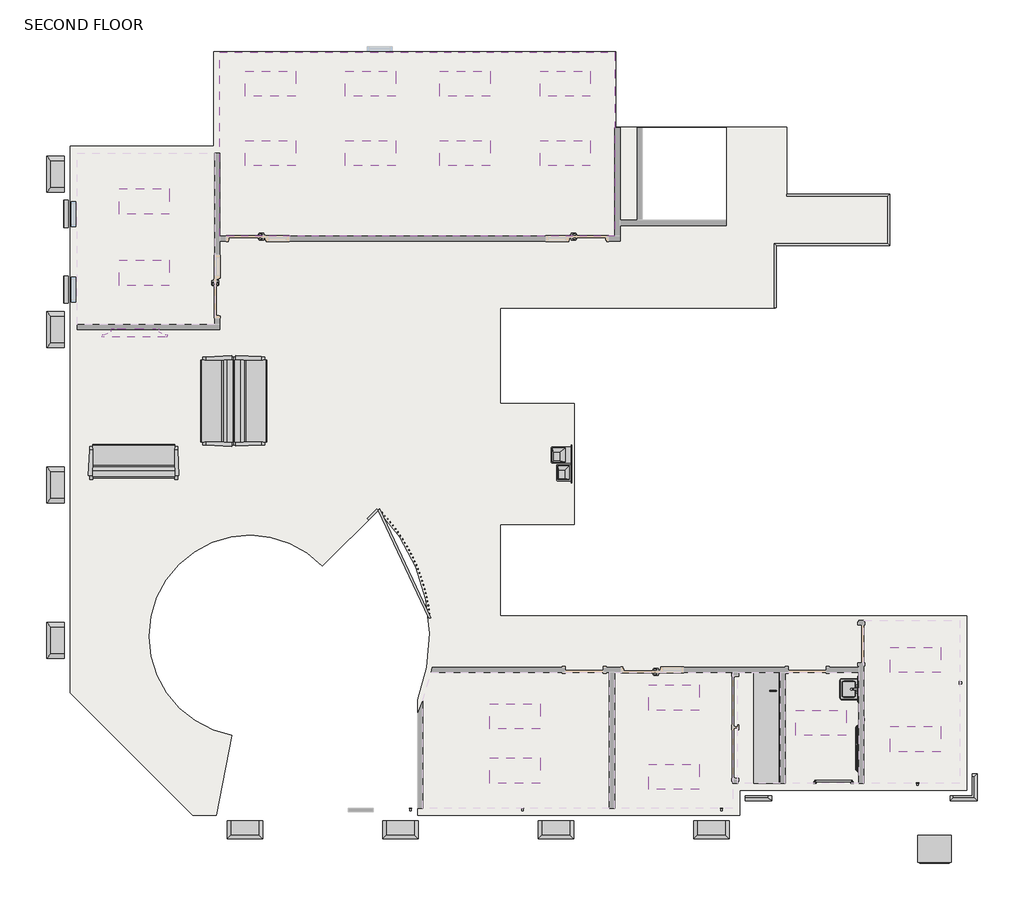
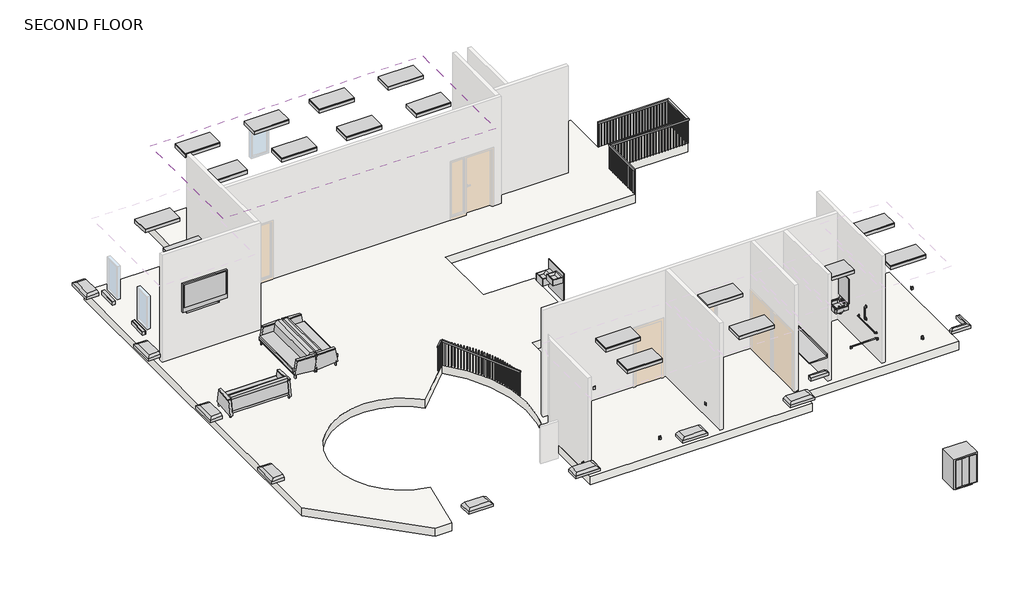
# One storey, part 2 of 2: 26 proxies, 17 light fixtures, 4 furniture elements, 3 flow terminals, 3 railings, 1 covering, 1 slab.
"""IFC4 building model written with IfcOpenShell, lengths in millimetres."""

from ifc_helpers import new_model, si_unit, point, frame, frame_2d, origin, place, context, project, spatial, polyline, circle_curve, trimmed, segment, composite_curve, outline, extrude, transform, mapped, element, save
from components import proxy_200_kva_0cb5b2e3, column_cap_corner_column_cap_corner_2673580a, column_cap_column_cap_363ad37e, duplex_receptacle_gfci_10251bba, grab_bar_ada_3_piece_grab_bar_ada_3_piece_66226777, precast_column_cap10_precast_column_cap_2545b0d7, precast_column_cap3_precast_column_cap_b02b9755, precast_column_cap4_precast_column_cap_0c692d38, proxy_52aa913c, tv_plasma_65_inch_5397_tv_plasma_42_inch_3d32dca7, flow_terminal_cf2a86d7, flow_terminal_50ef5554, flow_terminal_77e50434, furniture_2134_mm_67ee6dc0, furniture_60aab8a8, troffer_light_2x4_parabolic_2_x4_2_lamp_120v_ca384779, handrail_rectangular_2085f445, handrail_rectangular_c3d4dcf0, handrail_rectangular_678e5dc5

model = new_model("IFC4")

# Units and contexts
model_context = context("Model", 3, world=origin())
ifc_project = project(units=[si_unit("LENGTHUNIT", "METRE", prefix="MILLI")], contexts=[model_context])

# Site, building, storey
site = spatial("IfcSite", under=ifc_project)
building = spatial("IfcBuilding", under=site)
storey = spatial("IfcBuildingStorey", under=building, Name="SECOND FLOOR", Elevation=34594.8)

# Proxies
placement = place(None, origin())
proxy_200_kva_shape = proxy_200_kva_0cb5b2e3(model_context)
element("IfcBuildingElementProxy", 1, Name="Dry Type Transformer - 12000-208Y120 - NEMA Type 1 : 200 kVA", ObjectType="Dry Type Transformer - 12000-208Y120 - NEMA Type 1 : 200 kVA", at=placement, inside=storey, context=model_context, shape_type="MappedRepresentation", body=[
    mapped(proxy_200_kva_shape, transform((4206.764747, -6597.5239595, 30473.65), x_axis=(1.0, 0.0, 0.0), y_axis=(0.0, 1.0, 0.0), z_axis=(0.0, 0.0, 1.0))),
])
column_cap_corner_column_cap_corner_shape = column_cap_corner_column_cap_corner_2673580a(model_context)
element("IfcBuildingElementProxy", 2, Name="COLUMN CAP - CORNER : COLUMN CAP - CORNER", ObjectType="COLUMN CAP - CORNER : COLUMN CAP - CORNER", at=placement, inside=storey, context=model_context, shape_type="MappedRepresentation", body=[
    mapped(column_cap_corner_column_cap_corner_shape, transform((0.0, 0.0, 0.0), x_axis=(1.0, 0.0, 0.0), y_axis=(0.0, 1.0, 0.0), z_axis=(0.0, 0.0, 1.0))),
])
column_cap_column_cap_shape = column_cap_column_cap_363ad37e(model_context)
element("IfcBuildingElementProxy", 3, Name="COLUMN CAP : COLUMN CAP", ObjectType="COLUMN CAP : COLUMN CAP", at=placement, inside=storey, context=model_context, shape_type="MappedRepresentation", body=[
    mapped(column_cap_column_cap_shape, transform((0.0, 0.0, 0.0), x_axis=(1.0, 0.0, 0.0), y_axis=(0.0, 1.0, 0.0), z_axis=(0.0, 0.0, 1.0))),
])
duplex_receptacle_gfci_shape = duplex_receptacle_gfci_10251bba(model_context)
element("IfcBuildingElementProxy", 4, Name="Duplex Receptacle : GFCI", ObjectType="Duplex Receptacle : GFCI", at=placement, inside=storey, context=model_context, shape_type="MappedRepresentation", body=[
    mapped(duplex_receptacle_gfci_shape, transform((2095.389747, -2663.5972564, 35814.0), x_axis=(1.0, 0.0, 0.0), y_axis=(0.0, 0.0, 1.0), z_axis=(0.0, -1.0, 0.0))),
])
element("IfcBuildingElementProxy", 5, Name="Duplex Receptacle : Standard", ObjectType="Duplex Receptacle : Standard", at=placement, inside=storey, context=model_context, shape_type="MappedRepresentation", body=[
    mapped(duplex_receptacle_gfci_shape, transform((2501.789747, -3806.5972564, 35052.0), x_axis=(0.0, 1.0, 0.0), y_axis=(0.0, 0.0, 1.0), z_axis=(1.0, 0.0, 0.0))),
])
element("IfcBuildingElementProxy", 6, Name="Duplex Receptacle : Standard", ObjectType="Duplex Receptacle : Standard", at=placement, inside=storey, context=model_context, shape_type="MappedRepresentation", body=[
    mapped(duplex_receptacle_gfci_shape, transform((3800.364747, -5343.3989595, 35052.0), x_axis=(-1.0, 0.0, 0.0), y_axis=(0.0, 0.0, 1.0), z_axis=(0.0, 1.0, 0.0))),
])
element("IfcBuildingElementProxy", 7, Name="Duplex Receptacle : Standard", ObjectType="Duplex Receptacle : Standard", at=placement, inside=storey, context=model_context, shape_type="MappedRepresentation", body=[
    mapped(duplex_receptacle_gfci_shape, transform((4816.364747, -2917.5972564, 35052.0), x_axis=(0.0, -1.0, 0.0), y_axis=(0.0, 0.0, 1.0), z_axis=(-1.0, 0.0, 0.0))),
])
element("IfcBuildingElementProxy", 8, Name="Duplex Receptacle : Standard", ObjectType="Duplex Receptacle : Standard", at=placement, inside=storey, context=model_context, shape_type="MappedRepresentation", body=[
    mapped(duplex_receptacle_gfci_shape, transform((476.139747, -3228.8489595, 35052.0), x_axis=(0.0, -1.0, 0.0), y_axis=(0.0, 0.0, 1.0), z_axis=(-1.0, 0.0, 0.0))),
])
element("IfcBuildingElementProxy", 9, Name="Duplex Receptacle : Standard", ObjectType="Duplex Receptacle : Standard", at=placement, inside=storey, context=model_context, shape_type="MappedRepresentation", body=[
    mapped(duplex_receptacle_gfci_shape, transform((476.139747, -4505.1989595, 35052.0), x_axis=(0.0, -1.0, 0.0), y_axis=(0.0, 0.0, 1.0), z_axis=(-1.0, 0.0, 0.0))),
])
element("IfcBuildingElementProxy", 10, Name="Duplex Receptacle : Standard", ObjectType="Duplex Receptacle : Standard", at=placement, inside=storey, context=model_context, shape_type="MappedRepresentation", body=[
    mapped(duplex_receptacle_gfci_shape, transform((-3525.947753, -5495.7989595, 35052.0), x_axis=(0.0, 1.0, 0.0), y_axis=(0.0, 0.0, 1.0), z_axis=(1.0, 0.0, 0.0))),
])
element("IfcBuildingElementProxy", 11, Name="Duplex Receptacle : Standard", ObjectType="Duplex Receptacle : Standard", at=placement, inside=storey, context=model_context, shape_type="MappedRepresentation", body=[
    mapped(duplex_receptacle_gfci_shape, transform((-939.940733, -5952.9989595, 35052.0), x_axis=(-1.0, 0.0, 0.0), y_axis=(0.0, 0.0, 1.0), z_axis=(0.0, 1.0, 0.0))),
])
element("IfcBuildingElementProxy", 12, Name="Duplex Receptacle : Standard", ObjectType="Duplex Receptacle : Standard", at=placement, inside=storey, context=model_context, shape_type="MappedRepresentation", body=[
    mapped(duplex_receptacle_gfci_shape, transform((-8458.320413, -5952.9989595, 35052.0), x_axis=(-1.0, 0.0, 0.0), y_axis=(0.0, 0.0, 1.0), z_axis=(0.0, 1.0, 0.0))),
])
element("IfcBuildingElementProxy", 13, Name="Duplex Receptacle : Standard", ObjectType="Duplex Receptacle : Standard", at=placement, inside=storey, context=model_context, shape_type="MappedRepresentation", body=[
    mapped(duplex_receptacle_gfci_shape, transform((-5750.055573, -5952.9989595, 35052.0), x_axis=(-1.0, 0.0, 0.0), y_axis=(0.0, 0.0, 1.0), z_axis=(0.0, 1.0, 0.0))),
])
element("IfcBuildingElementProxy", 14, Name="Duplex Receptacle : Standard", ObjectType="Duplex Receptacle : Standard", at=placement, inside=storey, context=model_context, shape_type="MappedRepresentation", body=[
    mapped(duplex_receptacle_gfci_shape, transform((-3649.772753, -5090.5165506, 35052.0), x_axis=(0.0, -1.0, 0.0), y_axis=(0.0, 0.0, 1.0), z_axis=(-1.0, 0.0, 0.0))),
])
element("IfcBuildingElementProxy", 15, Name="Duplex Receptacle : Standard", ObjectType="Duplex Receptacle : Standard", at=placement, inside=storey, context=model_context, shape_type="MappedRepresentation", body=[
    mapped(duplex_receptacle_gfci_shape, transform((-6153.260253, -2663.5972564, 35052.0), x_axis=(1.0, 0.0, 0.0), y_axis=(0.0, 0.0, 1.0), z_axis=(0.0, -1.0, 0.0))),
])
grab_bar_ada_3_piece_grab_bar_ada_3_piece_shape = grab_bar_ada_3_piece_grab_bar_ada_3_piece_66226777(model_context)
element("IfcBuildingElementProxy", 16, Name="Grab Bar ADA - 3 Piece : Grab Bar ADA - 3 Piece", ObjectType="Grab Bar ADA - 3 Piece : Grab Bar ADA - 3 Piece", at=placement, inside=storey, context=model_context, shape_type="MappedRepresentation", body=[
    mapped(grab_bar_ada_3_piece_grab_bar_ada_3_piece_shape, transform((2377.964747, -5495.7989595, 34709.1), x_axis=(-1.0, 0.0, 0.0), y_axis=(0.0, -1.0, 0.0), z_axis=(0.0, 0.0, 1.0))),
])
precast_column_cap10_precast_column_cap_shape = precast_column_cap10_precast_column_cap_2545b0d7(model_context)
element("IfcBuildingElementProxy", 17, Name="Precast Column Cap10 : Precast Column Cap", ObjectType="Precast Column Cap10 : Precast Column Cap", at=placement, inside=storey, context=model_context, shape_type="MappedRepresentation", body=[
    mapped(precast_column_cap10_precast_column_cap_shape, transform((-10566.6362936, -3067.0443725, 0.0), x_axis=(0.0, -1.0, 0.0), y_axis=(1.0, 0.0, 0.0), z_axis=(0.0, 0.0, 1.0))),
])
element("IfcBuildingElementProxy", 18, Name="Precast Column Cap11 : Precast Column Cap", ObjectType="Precast Column Cap11 : Precast Column Cap", at=placement, inside=storey, context=model_context, shape_type="MappedRepresentation", body=[
    mapped(precast_column_cap10_precast_column_cap_shape, transform((-10566.6362936, 692.1454675, 0.0), x_axis=(0.0, -1.0, 0.0), y_axis=(1.0, 0.0, 0.0), z_axis=(0.0, 0.0, 1.0))),
])
element("IfcBuildingElementProxy", 19, Name="Precast Column Cap12 : Precast Column Cap", ObjectType="Precast Column Cap12 : Precast Column Cap", at=placement, inside=storey, context=model_context, shape_type="MappedRepresentation", body=[
    mapped(precast_column_cap10_precast_column_cap_shape, transform((-10566.6362936, 4451.3353075, 0.0), x_axis=(0.0, -1.0, 0.0), y_axis=(1.0, 0.0, 0.0), z_axis=(0.0, 0.0, 1.0))),
])
element("IfcBuildingElementProxy", 20, Name="Precast Column Cap2 : Precast Column Cap", ObjectType="Precast Column Cap2 : Precast Column Cap", at=placement, inside=storey, context=model_context, shape_type="MappedRepresentation", body=[
    mapped(precast_column_cap10_precast_column_cap_shape, transform((0.0, 0.0, 0.0), x_axis=(1.0, 0.0, 0.0), y_axis=(0.0, 1.0, 0.0), z_axis=(0.0, 0.0, 1.0))),
])
precast_column_cap3_precast_column_cap_shape = precast_column_cap3_precast_column_cap_b02b9755(model_context)
element("IfcBuildingElementProxy", 21, Name="Precast Column Cap3 : Precast Column Cap", ObjectType="Precast Column Cap3 : Precast Column Cap", at=placement, inside=storey, context=model_context, shape_type="MappedRepresentation", body=[
    mapped(precast_column_cap3_precast_column_cap_shape, transform((0.0, 0.0, 0.0), x_axis=(1.0, 0.0, 0.0), y_axis=(0.0, 1.0, 0.0), z_axis=(0.0, 0.0, 1.0))),
])
precast_column_cap4_precast_column_cap_shape = precast_column_cap4_precast_column_cap_0c692d38(model_context)
element("IfcBuildingElementProxy", 22, Name="Precast Column Cap4 : Precast Column Cap", ObjectType="Precast Column Cap4 : Precast Column Cap", at=placement, inside=storey, context=model_context, shape_type="MappedRepresentation", body=[
    mapped(precast_column_cap4_precast_column_cap_shape, transform((0.0, 0.0, 0.0), x_axis=(1.0, 0.0, 0.0), y_axis=(0.0, 1.0, 0.0), z_axis=(0.0, 0.0, 1.0))),
])
element("IfcBuildingElementProxy", 23, Name="Precast Column Cap9 : Precast Column Cap", ObjectType="Precast Column Cap9 : Precast Column Cap", at=placement, inside=storey, context=model_context, shape_type="MappedRepresentation", body=[
    mapped(precast_column_cap10_precast_column_cap_shape, transform((-10566.6362936, -6826.214034, 0.0), x_axis=(0.0, -1.0, 0.0), y_axis=(1.0, 0.0, 0.0), z_axis=(0.0, 0.0, 1.0))),
])
proxy_shape = proxy_52aa913c(model_context)
element("IfcBuildingElementProxy", 24, Name="Stone Sill : 2' x 8\" x 3 5/8\" Deep", ObjectType="Stone Sill : 2' x 8\" x 3 5/8\" Deep", at=placement, inside=storey, context=model_context, shape_type="MappedRepresentation", body=[
    mapped(proxy_shape, transform((-16673.80834, 5980.3756405, 33267.1320312), x_axis=(0.0, 1.0, 0.0), y_axis=(-1.0, 0.0, 0.0), z_axis=(0.0, 0.0, 1.0))),
])
element("IfcBuildingElementProxy", 25, Name="Stone Sill : 2' x 8\" x 3 5/8\" Deep", ObjectType="Stone Sill : 2' x 8\" x 3 5/8\" Deep", at=placement, inside=storey, context=model_context, shape_type="MappedRepresentation", body=[
    mapped(proxy_shape, transform((-16673.80834, 7809.1756405, 33267.1320313), x_axis=(0.0, 1.0, 0.0), y_axis=(-1.0, 0.0, 0.0), z_axis=(0.0, 0.0, 1.0))),
])
tv_plasma_65_inch_5397_tv_plasma_42_inch_shape = tv_plasma_65_inch_5397_tv_plasma_42_inch_3d32dca7(model_context)
element("IfcBuildingElementProxy", 26, Name="TV_PLASMA_65_INCH_5397 : TV Plasma 42 inch", ObjectType="TV_PLASMA_65_INCH_5397 : TV Plasma 42 inch", at=placement, inside=storey, context=model_context, shape_type="MappedRepresentation", body=[
    mapped(tv_plasma_65_inch_5397_tv_plasma_42_inch_shape, transform((-15119.460253, 5502.3807205, 35509.2), x_axis=(1.0, 0.0, 0.0), y_axis=(0.0, 1.0, 0.0), z_axis=(0.0, 0.0, 1.0))),
])

# Covering
element("IfcCovering", 27, ObjectType="2' x 2' ACT System", at=placement, inside=storey, context=model_context, shape_type="SweptSolid", body=[
    extrude(outline(polyline([(-13065.235253, 12335.0010405), (-8332.897753, 12335.0010405), (-3514.835253, 12335.0010405), (-3514.835253, 10658.6010405), (-3514.835253, 7886.8158805), (-13065.235253, 7886.8158805), (-13065.235253, 10049.0010405), (-13065.235253, 12335.0010405)]), holes=[polyline([(-11236.435253, 11877.8010405), (-12455.635253, 11877.8010405), (-12455.635253, 11268.2010405), (-11236.435253, 11268.2010405), (-11236.435253, 11877.8010405)]), polyline([(-11236.435253, 10201.4010405), (-12455.635253, 10201.4010405), (-12455.635253, 9591.8010405), (-11236.435253, 9591.8010405), (-11236.435253, 10201.4010405)]), polyline([(-4106.972753, 10201.4010405), (-5326.172753, 10201.4010405), (-5326.172753, 9591.8010405), (-4106.972753, 9591.8010405), (-4106.972753, 10201.4010405)]), polyline([(-4106.972753, 11877.8010405), (-5326.172753, 11877.8010405), (-5326.172753, 11268.2010405), (-4106.972753, 11268.2010405), (-4106.972753, 11877.8010405)]), polyline([(-6528.5348744, 11877.8010405), (-7747.7348744, 11877.8010405), (-7747.7348744, 11268.2010405), (-6528.5348744, 11268.2010405), (-6528.5348744, 11877.8010405)]), polyline([(-6528.5348744, 10201.4010405), (-7747.7348744, 10201.4010405), (-7747.7348744, 9591.8010405), (-6528.5348744, 9591.8010405), (-6528.5348744, 10201.4010405)]), polyline([(-8813.8668501, 10201.4010405), (-10033.0668501, 10201.4010405), (-10033.0668501, 9591.8010405), (-8813.8668501, 9591.8010405), (-8813.8668501, 10201.4010405)]), polyline([(-8813.8668501, 11877.8010405), (-10033.0668501, 11877.8010405), (-10033.0668501, 11268.2010405), (-8813.8668501, 11268.2010405), (-8813.8668501, 11877.8010405)])]), frame((0.0, 0.0, 37338.0), z_axis=(0.0, 0.0, 1.0), x_axis=(1.0, 0.0, 0.0)), (0.0, 0.0, 1.0), 57.15),
])

# Flow terminals
flow_terminal_shape = flow_terminal_cf2a86d7(model_context)
element("IfcFlowTerminal", 28, ObjectType="Drinking Fountain-Hi-Lo-3D : Drinking Fountain-Hi-Lo-3D", at=placement, inside=storey, context=model_context, shape_type="MappedRepresentation", body=[
    mapped(flow_terminal_shape, transform((-4502.260253, 2390.3195947, 34594.8), x_axis=(0.0, 1.0, 0.0), y_axis=(-1.0, 0.0, 0.0), z_axis=(0.0, 0.0, 1.0))),
])
flow_terminal_2_shape = flow_terminal_50ef5554(model_context)
element("IfcFlowTerminal", 29, ObjectType="Sink Kitchen-Single : 24\" x 21\"", at=placement, inside=storey, context=model_context, shape_type="MappedRepresentation", body=[
    mapped(flow_terminal_2_shape, transform((168.9638659, -3092.4080159, 34442.4), x_axis=(0.0, -1.0, 0.0), y_axis=(1.0, 0.0, 0.0), z_axis=(0.0, 0.0, 1.0))),
])
flow_terminal_3_shape = flow_terminal_77e50434(model_context)
element("IfcFlowTerminal", 30, ObjectType="sink_wall hung w_mirror_4835 : 20\" x 18\"", at=placement, inside=storey, context=model_context, shape_type="MappedRepresentation", body=[
    mapped(flow_terminal_3_shape, transform((2439.877247, -3363.5869526, 34594.8), x_axis=(0.0, 1.0, 0.0), y_axis=(-1.0, 0.0, 0.0), z_axis=(0.0, 0.0, 1.0))),
])

# Furniture
furniture_2134_mm_shape = furniture_2134_mm_67ee6dc0(model_context)
element("IfcFurniture", 31, ObjectType="M_Banquette (2) : 2134 mm", at=placement, inside=storey, context=model_context, shape_type="MappedRepresentation", body=[
    mapped(furniture_2134_mm_shape, transform((-12076.925417, 3623.5947905, 34594.8), x_axis=(0.0, 1.0, 0.0), y_axis=(-1.0, 0.0, 0.0), z_axis=(0.0, 0.0, 1.0))),
])
element("IfcFurniture", 32, ObjectType="M_Banquette (2) : 2134 mm", at=placement, inside=storey, context=model_context, shape_type="MappedRepresentation", body=[
    mapped(furniture_2134_mm_shape, transform((-14869.429003, 2706.1007166, 34594.8), x_axis=(-1.0, 0.0, 0.0), y_axis=(0.0, -1.0, 0.0), z_axis=(0.0, 0.0, 1.0))),
])
element("IfcFurniture", 33, ObjectType="M_Banquette (2) : 2134 mm", at=placement, inside=storey, context=model_context, shape_type="MappedRepresentation", body=[
    mapped(furniture_2134_mm_shape, transform((-13386.7950891, 4180.8072905, 34594.8), x_axis=(0.0, -1.0, 0.0), y_axis=(1.0, 0.0, 0.0), z_axis=(0.0, 0.0, 1.0))),
])
furniture_shape = furniture_60aab8a8(model_context)
element("IfcFurniture", 34, ObjectType="Counter Top : 24\" Depth", at=placement, inside=storey, context=model_context, shape_type="MappedRepresentation", body=[
    mapped(furniture_shape, transform((476.139747, -3864.0595515, 34594.8), x_axis=(0.0, -1.0, 0.0), y_axis=(1.0, 0.0, 0.0), z_axis=(0.0, 0.0, 1.0))),
])

# Light fixtures
troffer_light_2x4_parabolic_2_x4_2_lamp_120v_shape = troffer_light_2x4_parabolic_2_x4_2_lamp_120v_ca384779(model_context)
element("IfcLightFixture", 35, ObjectType="Troffer Light - 2x4 Parabolic : 2'x4'(2 Lamp) - 120V", at=placement, inside=storey, context=model_context, shape_type="MappedRepresentation", body=[
    mapped(troffer_light_2x4_parabolic_2_x4_2_lamp_120v_shape, transform((-14875.3317515, 8787.6669726, 34899.6), x_axis=(1.0, 0.0, 0.0), y_axis=(0.0, 1.0, 0.0), z_axis=(0.0, 0.0, 1.0))),
])
element("IfcLightFixture", 36, ObjectType="Troffer Light - 2x4 Parabolic : 2'x4'(2 Lamp) - 120V", at=placement, inside=storey, context=model_context, shape_type="MappedRepresentation", body=[
    mapped(troffer_light_2x4_parabolic_2_x4_2_lamp_120v_shape, transform((-14875.3317515, 7060.4568126, 34899.6), x_axis=(1.0, 0.0, 0.0), y_axis=(0.0, 1.0, 0.0), z_axis=(0.0, 0.0, 1.0))),
])
element("IfcLightFixture", 37, ObjectType="Troffer Light - 2x4 Parabolic : 2'x4'(2 Lamp) - 120V", at=placement, inside=storey, context=model_context, shape_type="MappedRepresentation", body=[
    mapped(troffer_light_2x4_parabolic_2_x4_2_lamp_120v_shape, transform((-11827.3317515, 11632.4669726, 34899.6), x_axis=(1.0, 0.0, 0.0), y_axis=(0.0, 1.0, 0.0), z_axis=(0.0, 0.0, 1.0))),
])
element("IfcLightFixture", 38, ObjectType="Troffer Light - 2x4 Parabolic : 2'x4'(2 Lamp) - 120V", at=placement, inside=storey, context=model_context, shape_type="MappedRepresentation", body=[
    mapped(troffer_light_2x4_parabolic_2_x4_2_lamp_120v_shape, transform((-11827.3317515, 9956.0669726, 34899.6), x_axis=(1.0, 0.0, 0.0), y_axis=(0.0, 1.0, 0.0), z_axis=(0.0, 0.0, 1.0))),
])
element("IfcLightFixture", 39, ObjectType="Troffer Light - 2x4 Parabolic : 2'x4'(2 Lamp) - 120V", at=placement, inside=storey, context=model_context, shape_type="MappedRepresentation", body=[
    mapped(troffer_light_2x4_parabolic_2_x4_2_lamp_120v_shape, transform((-4697.8692515, 9956.0669726, 34899.6), x_axis=(1.0, 0.0, 0.0), y_axis=(0.0, 1.0, 0.0), z_axis=(0.0, 0.0, 1.0))),
])
element("IfcLightFixture", 40, ObjectType="Troffer Light - 2x4 Parabolic : 2'x4'(2 Lamp) - 120V", at=placement, inside=storey, context=model_context, shape_type="MappedRepresentation", body=[
    mapped(troffer_light_2x4_parabolic_2_x4_2_lamp_120v_shape, transform((-4697.8692515, 11632.4669726, 34899.6), x_axis=(1.0, 0.0, 0.0), y_axis=(0.0, 1.0, 0.0), z_axis=(0.0, 0.0, 1.0))),
])
element("IfcLightFixture", 41, ObjectType="Troffer Light - 2x4 Parabolic : 2'x4'(2 Lamp) - 120V", at=placement, inside=storey, context=model_context, shape_type="MappedRepresentation", body=[
    mapped(troffer_light_2x4_parabolic_2_x4_2_lamp_120v_shape, transform((-7119.4313728, 11632.4669726, 34899.6), x_axis=(1.0, 0.0, 0.0), y_axis=(0.0, 1.0, 0.0), z_axis=(0.0, 0.0, 1.0))),
])
element("IfcLightFixture", 42, ObjectType="Troffer Light - 2x4 Parabolic : 2'x4'(2 Lamp) - 120V", at=placement, inside=storey, context=model_context, shape_type="MappedRepresentation", body=[
    mapped(troffer_light_2x4_parabolic_2_x4_2_lamp_120v_shape, transform((-7119.4313728, 9956.0669726, 34899.6), x_axis=(1.0, 0.0, 0.0), y_axis=(0.0, 1.0, 0.0), z_axis=(0.0, 0.0, 1.0))),
])
element("IfcLightFixture", 43, ObjectType="Troffer Light - 2x4 Parabolic : 2'x4'(2 Lamp) - 120V", at=placement, inside=storey, context=model_context, shape_type="MappedRepresentation", body=[
    mapped(troffer_light_2x4_parabolic_2_x4_2_lamp_120v_shape, transform((-9404.7633485, 9956.0669726, 34899.6), x_axis=(1.0, 0.0, 0.0), y_axis=(0.0, 1.0, 0.0), z_axis=(0.0, 0.0, 1.0))),
])
element("IfcLightFixture", 44, ObjectType="Troffer Light - 2x4 Parabolic : 2'x4'(2 Lamp) - 120V", at=placement, inside=storey, context=model_context, shape_type="MappedRepresentation", body=[
    mapped(troffer_light_2x4_parabolic_2_x4_2_lamp_120v_shape, transform((-9404.7633485, 11632.4669726, 34899.6), x_axis=(1.0, 0.0, 0.0), y_axis=(0.0, 1.0, 0.0), z_axis=(0.0, 0.0, 1.0))),
])
element("IfcLightFixture", 45, ObjectType="Troffer Light - 2x4 Parabolic : 2'x4'(2 Lamp) - 120V", at=placement, inside=storey, context=model_context, shape_type="MappedRepresentation", body=[
    mapped(troffer_light_2x4_parabolic_2_x4_2_lamp_120v_shape, transform((-5917.0692515, -3670.9313243, 34899.6), x_axis=(1.0, 0.0, 0.0), y_axis=(0.0, 1.0, 0.0), z_axis=(0.0, 0.0, 1.0))),
])
element("IfcLightFixture", 46, ObjectType="Troffer Light - 2x4 Parabolic : 2'x4'(2 Lamp) - 120V", at=placement, inside=storey, context=model_context, shape_type="MappedRepresentation", body=[
    mapped(troffer_light_2x4_parabolic_2_x4_2_lamp_120v_shape, transform((-5917.0692515, -4979.1330274, 34899.6), x_axis=(1.0, 0.0, 0.0), y_axis=(0.0, 1.0, 0.0), z_axis=(0.0, 0.0, 1.0))),
])
element("IfcLightFixture", 47, ObjectType="Troffer Light - 2x4 Parabolic : 2'x4'(2 Lamp) - 120V", at=placement, inside=storey, context=model_context, shape_type="MappedRepresentation", body=[
    mapped(troffer_light_2x4_parabolic_2_x4_2_lamp_120v_shape, transform((-2073.7317515, -3213.7313243, 34899.6), x_axis=(1.0, 0.0, 0.0), y_axis=(0.0, 1.0, 0.0), z_axis=(0.0, 0.0, 1.0))),
])
element("IfcLightFixture", 48, ObjectType="Troffer Light - 2x4 Parabolic : 2'x4'(2 Lamp) - 120V", at=placement, inside=storey, context=model_context, shape_type="MappedRepresentation", body=[
    mapped(troffer_light_2x4_parabolic_2_x4_2_lamp_120v_shape, transform((-2073.7317515, -5131.5330274, 34899.6), x_axis=(1.0, 0.0, 0.0), y_axis=(0.0, 1.0, 0.0), z_axis=(0.0, 0.0, 1.0))),
])
element("IfcLightFixture", 49, ObjectType="Troffer Light - 2x4 Parabolic : 2'x4'(2 Lamp) - 120V", at=placement, inside=storey, context=model_context, shape_type="MappedRepresentation", body=[
    mapped(troffer_light_2x4_parabolic_2_x4_2_lamp_120v_shape, transform((1482.2682485, -3823.3313243, 34899.6), x_axis=(1.0, 0.0, 0.0), y_axis=(0.0, 1.0, 0.0), z_axis=(0.0, 0.0, 1.0))),
])
element("IfcLightFixture", 50, ObjectType="Troffer Light - 2x4 Parabolic : 2'x4'(2 Lamp) - 120V", at=placement, inside=storey, context=model_context, shape_type="MappedRepresentation", body=[
    mapped(troffer_light_2x4_parabolic_2_x4_2_lamp_120v_shape, transform((3768.2682485, -2299.3313243, 34899.6), x_axis=(1.0, 0.0, 0.0), y_axis=(0.0, 1.0, 0.0), z_axis=(0.0, 0.0, 1.0))),
])
element("IfcLightFixture", 51, ObjectType="Troffer Light - 2x4 Parabolic : 2'x4'(2 Lamp) - 120V", at=placement, inside=storey, context=model_context, shape_type="MappedRepresentation", body=[
    mapped(troffer_light_2x4_parabolic_2_x4_2_lamp_120v_shape, transform((3768.2682485, -4217.1330274, 34899.6), x_axis=(1.0, 0.0, 0.0), y_axis=(0.0, 1.0, 0.0), z_axis=(0.0, 0.0, 1.0))),
])

# Railings
handrail_rectangular_shape = handrail_rectangular_2085f445(model_context)
element("IfcRailing", 52, ObjectType="Handrail - Rectangular", at=placement, inside=storey, context=model_context, shape_type="MappedRepresentation", body=[
    mapped(handrail_rectangular_shape, transform((0.0, 0.0, 0.0), x_axis=(1.0, 0.0, 0.0), y_axis=(0.0, 1.0, 0.0), z_axis=(0.0, 0.0, 1.0))),
])
handrail_rectangular_2_shape = handrail_rectangular_c3d4dcf0(model_context)
element("IfcRailing", 53, ObjectType="Handrail - Rectangular", at=placement, inside=storey, context=model_context, shape_type="MappedRepresentation", body=[
    mapped(handrail_rectangular_2_shape, transform((0.0, 0.0, 0.0), x_axis=(1.0, 0.0, 0.0), y_axis=(0.0, 1.0, 0.0), z_axis=(0.0, 0.0, 1.0))),
])
handrail_rectangular_3_shape = handrail_rectangular_678e5dc5(model_context)
element("IfcRailing", 54, ObjectType="Handrail - Rectangular", at=placement, inside=storey, context=model_context, shape_type="MappedRepresentation", body=[
    mapped(handrail_rectangular_3_shape, transform((0.0, 0.0, 0.0), x_axis=(1.0, 0.0, 0.0), y_axis=(0.0, 1.0, 0.0), z_axis=(0.0, 0.0, 1.0))),
])

# Slab
element("IfcSlab", 55, ObjectType="Generic - 12\"", at=placement, inside=storey, context=model_context, shape_type="SweptSolid", body=[
    extrude(outline(composite_curve([segment(polyline([(-16687.910253, 10064.8760405), (-13217.635253, 10064.8760405), (-13217.635253, 12350.8760405), (-3498.960253, 12350.8760405), (-3498.960253, 10522.0760405), (639.7789583, 10522.0760405), (639.7789583, 8880.6010405), (3103.5789583, 8880.6010405), (3103.5789583, 7683.6260405), (360.3789583, 7683.6260405), (360.3789583, 6143.7510405), (-6286.610253, 6143.7510405), (-6286.610253, 3840.2885405), (-4502.260253, 3840.2885405), (-4502.260253, 916.1135405), (-6286.610253, 916.1135405), (-6286.610253, -1295.2739595), (4984.639747, -1295.2739595), (4984.639747, -5511.6739595), (-501.760253, -5511.6739595), (-501.760253, -6121.2739595), (-8283.685253, -6121.2739595), (-8283.685253, -3333.5095722)]), True, "CONTINUOUS"), segment(trimmed(circle_curve(frame_2d((-12311.0905196, -1776.2264191)), 4318.0), [point((-8283.685253, -3333.5095722))], [point((-9237.3360005, 1256.4550934))], True, "CARTESIAN"), True, "CONTINUOUS"), segment(polyline([(-9237.3360005, 1256.4550934), (-10586.567731, -92.776637)]), True, "CONTINUOUS"), segment(trimmed(circle_curve(frame_2d((-12346.8147633, -1780.1784698)), 2438.4), [point((-10586.567731, -92.776637))], [point((-12774.0818528, -4180.8528322))], True, "CARTESIAN"), True, "CONTINUOUS"), segment(polyline([(-12774.0818528, -4180.8528322), (-13147.6942193, -6121.2739595), (-13719.8847464, -6121.2739595), (-16687.910253, -3153.2484529), (-16687.910253, 10064.8760405)]), True, "CONTINUOUS")], self_intersect=False), holes=[polyline([(-822.435253, 10506.2010405), (-2854.435253, 10506.2010405), (-2854.435253, 8271.0010405), (-822.435253, 8271.0010405), (-822.435253, 10506.2010405)])]), frame((0.0, 0.0, 34290.0), z_axis=(0.0, 0.0, 1.0), x_axis=(1.0, 0.0, 0.0)), (0.0, 0.0, 1.0), 304.8),
])

save(model, "model.ifc")
